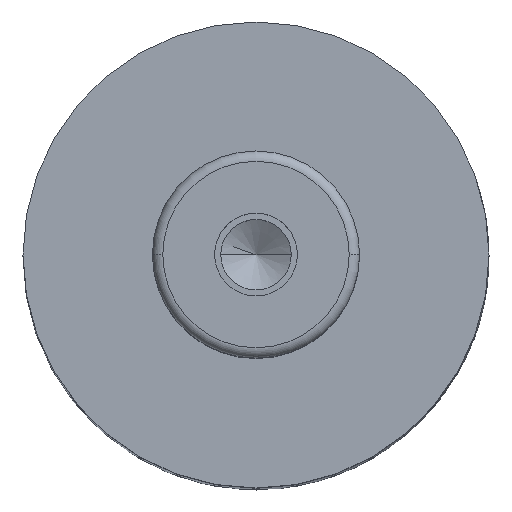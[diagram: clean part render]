
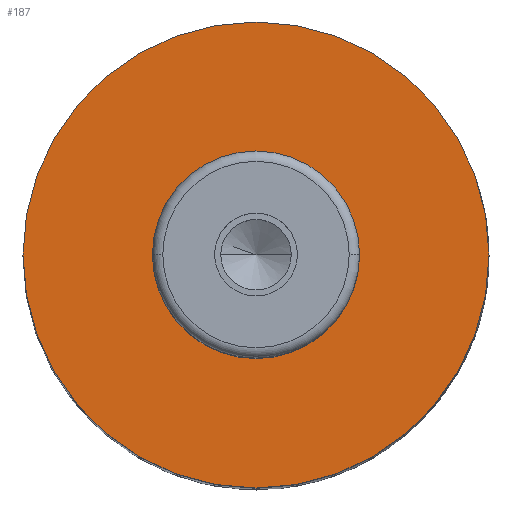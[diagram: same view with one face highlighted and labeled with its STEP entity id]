
A CAD part, top view. The second image highlights one B-rep face of the part: STEP entity #187.
In plain terms, the highlighted planar face has unit normal (0, 0, 1).
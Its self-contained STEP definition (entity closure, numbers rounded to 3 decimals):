
#107=PLANE('',#989);
#130=FACE_BOUND('',#298,.T.);
#131=FACE_BOUND('',#299,.T.);
#187=ADVANCED_FACE('',(#130,#131),#107,.T.);
#298=EDGE_LOOP('',(#463,#464));
#299=EDGE_LOOP('',(#465,#466));
#367=CIRCLE('',#983,10.);
#368=CIRCLE('',#985,10.);
#369=CIRCLE('',#987,22.5);
#370=CIRCLE('',#988,22.5);
#463=ORIENTED_EDGE('',*,*,#758,.F.);
#464=ORIENTED_EDGE('',*,*,#759,.F.);
#465=ORIENTED_EDGE('',*,*,#757,.T.);
#466=ORIENTED_EDGE('',*,*,#755,.T.);
#670=VERTEX_POINT('',#1421);
#671=VERTEX_POINT('',#1423);
#672=VERTEX_POINT('',#1429);
#673=VERTEX_POINT('',#1430);
#755=EDGE_CURVE('',#671,#670,#367,.T.);
#757=EDGE_CURVE('',#670,#671,#368,.T.);
#758=EDGE_CURVE('',#672,#673,#369,.T.);
#759=EDGE_CURVE('',#673,#672,#370,.T.);
#983=AXIS2_PLACEMENT_3D('',#1422,#1137,#1138);
#985=AXIS2_PLACEMENT_3D('',#1426,#1142,#1143);
#987=AXIS2_PLACEMENT_3D('',#1428,#1146,#1147);
#988=AXIS2_PLACEMENT_3D('',#1431,#1148,#1149);
#989=AXIS2_PLACEMENT_3D('',#1432,#1150,#1151);
#1137=DIRECTION('',(0.,0.,-1.));
#1138=DIRECTION('',(0.,1.,0.));
#1142=DIRECTION('',(0.,0.,-1.));
#1143=DIRECTION('',(0.,-1.,0.));
#1146=DIRECTION('',(0.,0.,-1.));
#1147=DIRECTION('',(0.,1.,0.));
#1148=DIRECTION('',(0.,0.,-1.));
#1149=DIRECTION('',(0.,-1.,0.));
#1150=DIRECTION('',(0.,0.,1.));
#1151=DIRECTION('',(0.,-1.,0.));
#1421=CARTESIAN_POINT('',(-10.,0.,108.));
#1422=CARTESIAN_POINT('',(0.,0.,108.));
#1423=CARTESIAN_POINT('',(10.,0.,108.));
#1426=CARTESIAN_POINT('',(0.,0.,108.));
#1428=CARTESIAN_POINT('',(0.,0.,108.));
#1429=CARTESIAN_POINT('',(22.5,0.,108.));
#1430=CARTESIAN_POINT('',(-22.5,0.,108.));
#1431=CARTESIAN_POINT('',(0.,0.,108.));
#1432=CARTESIAN_POINT('',(0.,0.,108.));
